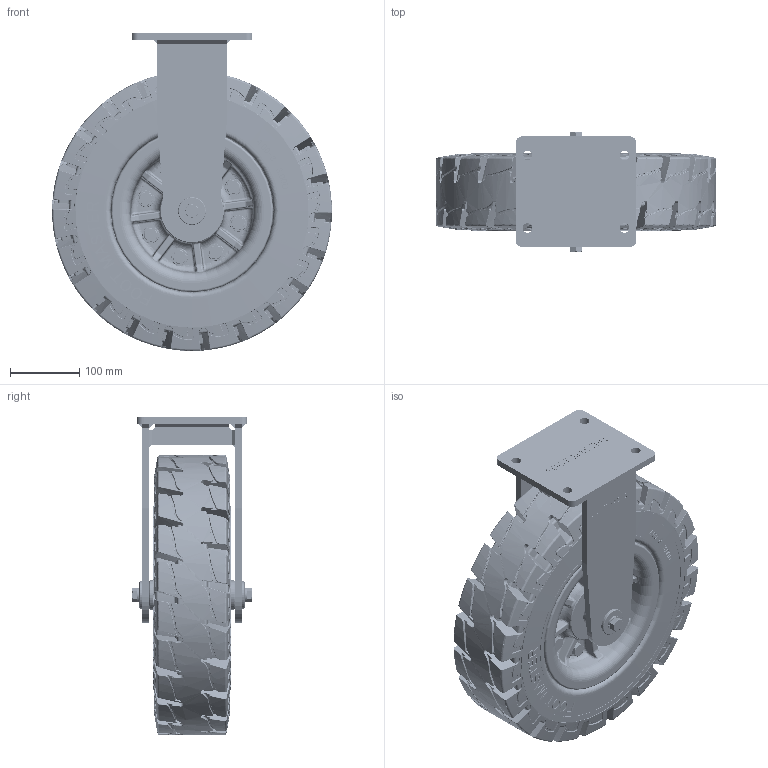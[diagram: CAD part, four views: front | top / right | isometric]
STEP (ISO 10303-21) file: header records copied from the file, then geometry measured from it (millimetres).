
FILE_DESCRIPTION(/* description */ (''),/* implementation_level */ '2;1');
FILE_NAME(/* name */ '\\192.168.10.38\지덕공유\1.기술연구소\2.연구개발 진행중\121.Solidtire caster_2024.11.22\제품설계\3D\홈페이지용\GT-400\33.GT-400-ARF-TRD.stp',/* time_stamp */ '2025-09-01T12:51:52+09:00',/* author */ ('admin'),/* organization */ (''),/* preprocessor_version */ 'ST-DEVELOPER v18.1',/* originating_system */ 'Autodesk Inventor 2021',/* authorisation */ '');
FILE_SCHEMA (('AUTOMOTIVE_DESIGN { 1 0 10303 214 3 1 1 }'));
Length unit declared in the file: millimetre
Products named in the file (1): 33.GT-400-ARF-TIRE-Rev01_2025.08.08_Shrinkwrap_1
Bounding box: 404.94 x 173 x 459.93 mm (x, y, z)
Volume: 12927332.3 mm3; surface area: 752009 mm2
Topology: 1 solids, 1 shells, 5934 faces, 15019 edges, 9180 vertices
Faces by surface type: bspline 3087, plane 1242, cylinder 766, torus 413, cone 306, sphere 120
Full cylindrical faces by diameter (mm): 12 x8, 14 x4, 18.5 x8, 24 x8, 40 x2, 42.7 x2, 258.997 x2, 317.998 x2, 333.998 x2, 336.998 x2
Entity records: 264509 total; most frequent: CARTESIAN_POINT 139815, ORIENTED_EDGE 29794, DIRECTION 16314, EDGE_CURVE 14897, VERTEX_POINT 9180, B_SPLINE_CURVE_WITH_KNOTS 7247, AXIS2_PLACEMENT_3D 6350, EDGE_LOOP 6171
